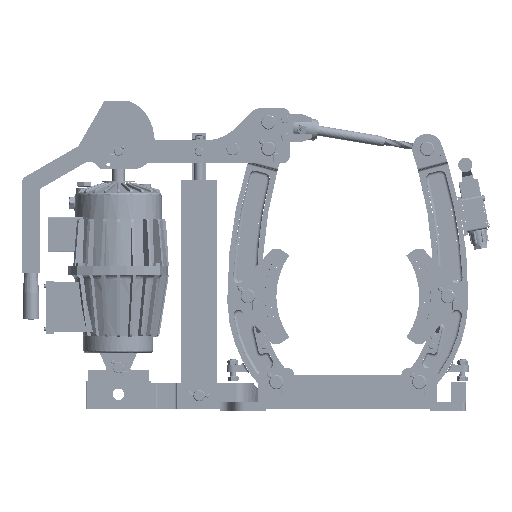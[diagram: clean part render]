
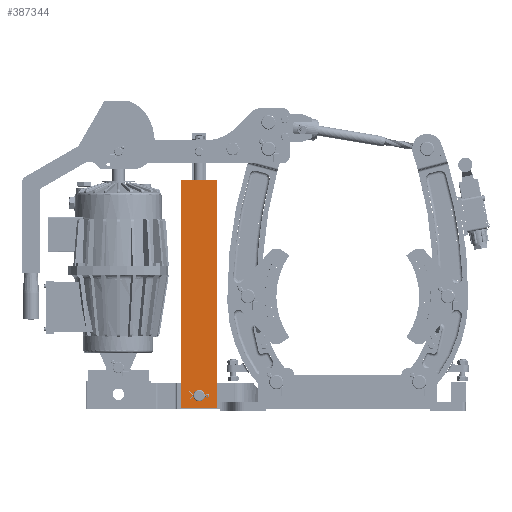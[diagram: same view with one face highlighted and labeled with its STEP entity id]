
A CAD part, left-side view. The second image highlights one B-rep face of the part: STEP entity #387344.
In plain terms, the highlighted planar face has unit normal (-1, 0, 0).
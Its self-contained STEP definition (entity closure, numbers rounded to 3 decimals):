
#387195=DIRECTION('',(0.,0.,1.));
#387196=VECTOR('',#387195,320.);
#387197=CARTESIAN_POINT('',(-69.999,398.001,
3.498));
#387198=LINE('',#387197,#387196);
#387202=DIRECTION('',(0.,-1.,0.));
#387203=VECTOR('',#387202,50.);
#387204=CARTESIAN_POINT('',(-69.999,398.001,
323.498));
#387205=LINE('',#387204,#387203);
#387209=DIRECTION('',(0.,0.,-1.));
#387210=VECTOR('',#387209,320.);
#387211=CARTESIAN_POINT('',(-69.999,348.001,
323.498));
#387212=LINE('',#387211,#387210);
#387216=DIRECTION('',(0.,1.,0.));
#387217=VECTOR('',#387216,50.);
#387218=CARTESIAN_POINT('',(-69.999,348.001,
3.498));
#387219=LINE('',#387218,#387217);
#387223=CARTESIAN_POINT('',(-69.999,373.001,
12.998));
#387224=CARTESIAN_POINT('',(-69.999,372.701,
12.998));
#387225=CARTESIAN_POINT('',(-69.999,372.103,
13.032));
#387226=CARTESIAN_POINT('',(-69.999,371.216,
13.183));
#387227=CARTESIAN_POINT('',(-69.999,370.353,
13.432));
#387228=CARTESIAN_POINT('',(-69.999,369.523,
13.775));
#387229=CARTESIAN_POINT('',(-69.999,368.735,
14.211));
#387230=CARTESIAN_POINT('',(-69.999,368.002,
14.731));
#387231=CARTESIAN_POINT('',(-69.999,367.331,
15.331));
#387232=CARTESIAN_POINT('',(-69.999,366.733,
16.001));
#387233=CARTESIAN_POINT('',(-69.999,366.213,
16.734));
#387234=CARTESIAN_POINT('',(-69.999,365.778,
17.521));
#387235=CARTESIAN_POINT('',(-69.999,365.435,
18.35));
#387236=CARTESIAN_POINT('',(-69.999,365.186,
19.213));
#387237=CARTESIAN_POINT('',(-69.999,365.035,
20.1));
#387238=CARTESIAN_POINT('',(-69.999,365.001,
20.697));
#387239=CARTESIAN_POINT('',(-69.999,365.001,
20.998));
#387244=CARTESIAN_POINT('',(-69.999,365.001,
20.998));
#387245=CARTESIAN_POINT('',(-69.999,365.001,
21.299));
#387246=CARTESIAN_POINT('',(-69.999,365.035,
21.896));
#387247=CARTESIAN_POINT('',(-69.999,365.186,
22.783));
#387248=CARTESIAN_POINT('',(-69.999,365.435,
23.647));
#387249=CARTESIAN_POINT('',(-69.999,365.779,
24.477));
#387250=CARTESIAN_POINT('',(-69.999,366.214,
25.264));
#387251=CARTESIAN_POINT('',(-69.999,366.735,
25.998));
#387252=CARTESIAN_POINT('',(-69.999,367.334,
26.668));
#387253=CARTESIAN_POINT('',(-69.999,368.004,
27.267));
#387254=CARTESIAN_POINT('',(-69.999,368.737,
27.787));
#387255=CARTESIAN_POINT('',(-69.999,369.524,
28.221));
#387256=CARTESIAN_POINT('',(-69.999,370.353,
28.565));
#387257=CARTESIAN_POINT('',(-69.999,371.216,
28.814));
#387258=CARTESIAN_POINT('',(-69.999,372.103,
28.964));
#387259=CARTESIAN_POINT('',(-69.999,372.7,
28.998));
#387260=CARTESIAN_POINT('',(-69.999,373.001,
28.998));
#387265=CARTESIAN_POINT('',(-69.999,373.001,
28.998));
#387266=CARTESIAN_POINT('',(-69.999,373.302,
28.998));
#387267=CARTESIAN_POINT('',(-69.999,373.899,
28.965));
#387268=CARTESIAN_POINT('',(-69.999,374.787,
28.814));
#387269=CARTESIAN_POINT('',(-69.999,375.65,
28.565));
#387270=CARTESIAN_POINT('',(-69.999,376.48,
28.221));
#387271=CARTESIAN_POINT('',(-69.999,377.267,
27.786));
#387272=CARTESIAN_POINT('',(-69.999,378.001,
27.265));
#387273=CARTESIAN_POINT('',(-69.999,378.671,
26.666));
#387274=CARTESIAN_POINT('',(-69.999,379.27,
25.995));
#387275=CARTESIAN_POINT('',(-69.999,379.79,
25.262));
#387276=CARTESIAN_POINT('',(-69.999,380.225,
24.476));
#387277=CARTESIAN_POINT('',(-69.999,380.568,
23.647));
#387278=CARTESIAN_POINT('',(-69.999,380.817,
22.783));
#387279=CARTESIAN_POINT('',(-69.999,380.968,
21.896));
#387280=CARTESIAN_POINT('',(-69.999,381.001,
21.299));
#387281=CARTESIAN_POINT('',(-69.999,381.001,
20.998));
#387286=CARTESIAN_POINT('',(-69.999,381.001,
20.998));
#387287=CARTESIAN_POINT('',(-69.999,381.001,
20.697));
#387288=CARTESIAN_POINT('',(-69.999,380.968,
20.1));
#387289=CARTESIAN_POINT('',(-69.999,380.817,
19.213));
#387290=CARTESIAN_POINT('',(-69.999,380.568,
18.349));
#387291=CARTESIAN_POINT('',(-69.999,380.224,
17.519));
#387292=CARTESIAN_POINT('',(-69.999,379.789,
16.732));
#387293=CARTESIAN_POINT('',(-69.999,379.268,
15.998));
#387294=CARTESIAN_POINT('',(-69.999,378.669,
15.328));
#387295=CARTESIAN_POINT('',(-69.999,377.998,
14.729));
#387296=CARTESIAN_POINT('',(-69.999,377.265,
14.21));
#387297=CARTESIAN_POINT('',(-69.999,376.479,
13.775));
#387298=CARTESIAN_POINT('',(-69.999,375.65,
13.432));
#387299=CARTESIAN_POINT('',(-69.999,374.787,
13.183));
#387300=CARTESIAN_POINT('',(-69.999,373.9,
13.032));
#387301=CARTESIAN_POINT('',(-69.999,373.302,
12.998));
#387302=CARTESIAN_POINT('',(-69.999,373.001,
12.998));
#387307=CARTESIAN_POINT('',(-69.999,398.001,
3.498));
#387308=CARTESIAN_POINT('',(-69.999,398.001,
323.498));
#387309=VERTEX_POINT('',#387307);
#387310=VERTEX_POINT('',#387308);
#387311=CARTESIAN_POINT('',(-69.999,348.001,
323.498));
#387312=VERTEX_POINT('',#387311);
#387313=CARTESIAN_POINT('',(-69.999,348.001,
3.498));
#387314=VERTEX_POINT('',#387313);
#387315=VERTEX_POINT('',#387223);
#387316=VERTEX_POINT('',#387239);
#387317=VERTEX_POINT('',#387260);
#387318=VERTEX_POINT('',#387281);
#387319=CARTESIAN_POINT('',(-69.999,373.001,
163.498));
#387320=DIRECTION('',(1.,0.,0.));
#387321=DIRECTION('',(0.,0.,1.));
#387322=AXIS2_PLACEMENT_3D('',#387319,#387320,#387321);
#387323=PLANE('',#387322);
#387325=ORIENTED_EDGE('',*,*,#387324,.T.);
#387327=ORIENTED_EDGE('',*,*,#387326,.T.);
#387329=ORIENTED_EDGE('',*,*,#387328,.T.);
#387331=ORIENTED_EDGE('',*,*,#387330,.T.);
#387332=EDGE_LOOP('',(#387325,#387327,#387329,#387331));
#387333=FACE_OUTER_BOUND('',#387332,.F.);
#387335=ORIENTED_EDGE('',*,*,#387334,.T.);
#387337=ORIENTED_EDGE('',*,*,#387336,.T.);
#387339=ORIENTED_EDGE('',*,*,#387338,.T.);
#387341=ORIENTED_EDGE('',*,*,#387340,.T.);
#387342=EDGE_LOOP('',(#387335,#387337,#387339,#387341));
#387343=FACE_BOUND('',#387342,.F.);
#387344=ADVANCED_FACE('',(#387333,#387343),#387323,.F.);
#387240=B_SPLINE_CURVE_WITH_KNOTS('',3,(#387223,#387224,#387225,#387226,#387227,
#387228,#387229,#387230,#387231,#387232,#387233,#387234,#387235,#387236,#387237,
#387238,#387239),.UNSPECIFIED.,.F.,.F.,(4,1,1,1,1,1,1,1,1,1,1,1,1,1,4),(0.,
0.071,0.143,0.214,0.286,
0.357,0.429,0.5,0.571,0.643,
0.714,0.786,0.857,0.929,1.),
.UNSPECIFIED.);
#387261=B_SPLINE_CURVE_WITH_KNOTS('',3,(#387244,#387245,#387246,#387247,#387248,
#387249,#387250,#387251,#387252,#387253,#387254,#387255,#387256,#387257,#387258,
#387259,#387260),.UNSPECIFIED.,.F.,.F.,(4,1,1,1,1,1,1,1,1,1,1,1,1,1,4),(0.,
0.071,0.143,0.214,0.286,
0.357,0.429,0.5,0.571,0.643,
0.714,0.786,0.857,0.929,1.),
.UNSPECIFIED.);
#387282=B_SPLINE_CURVE_WITH_KNOTS('',3,(#387265,#387266,#387267,#387268,#387269,
#387270,#387271,#387272,#387273,#387274,#387275,#387276,#387277,#387278,#387279,
#387280,#387281),.UNSPECIFIED.,.F.,.F.,(4,1,1,1,1,1,1,1,1,1,1,1,1,1,4),(0.,
0.071,0.143,0.214,0.286,
0.357,0.429,0.5,0.571,0.643,
0.714,0.786,0.857,0.929,1.),
.UNSPECIFIED.);
#387303=B_SPLINE_CURVE_WITH_KNOTS('',3,(#387286,#387287,#387288,#387289,#387290,
#387291,#387292,#387293,#387294,#387295,#387296,#387297,#387298,#387299,#387300,
#387301,#387302),.UNSPECIFIED.,.F.,.F.,(4,1,1,1,1,1,1,1,1,1,1,1,1,1,4),(0.,
0.071,0.143,0.214,0.286,
0.357,0.429,0.5,0.571,0.643,
0.714,0.786,0.857,0.929,1.),
.UNSPECIFIED.);
#387324=EDGE_CURVE('',#387309,#387310,#387198,.T.);
#387326=EDGE_CURVE('',#387310,#387312,#387205,.T.);
#387328=EDGE_CURVE('',#387312,#387314,#387212,.T.);
#387330=EDGE_CURVE('',#387314,#387309,#387219,.T.);
#387334=EDGE_CURVE('',#387315,#387316,#387240,.T.);
#387336=EDGE_CURVE('',#387316,#387317,#387261,.T.);
#387338=EDGE_CURVE('',#387317,#387318,#387282,.T.);
#387340=EDGE_CURVE('',#387318,#387315,#387303,.T.);
